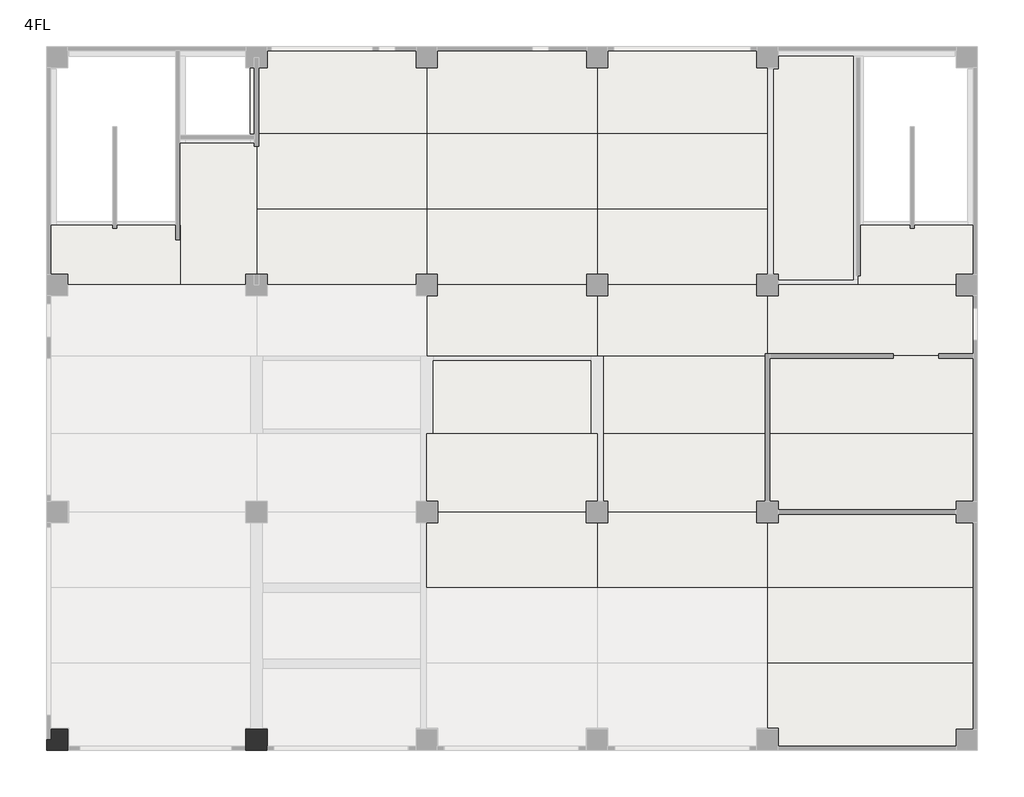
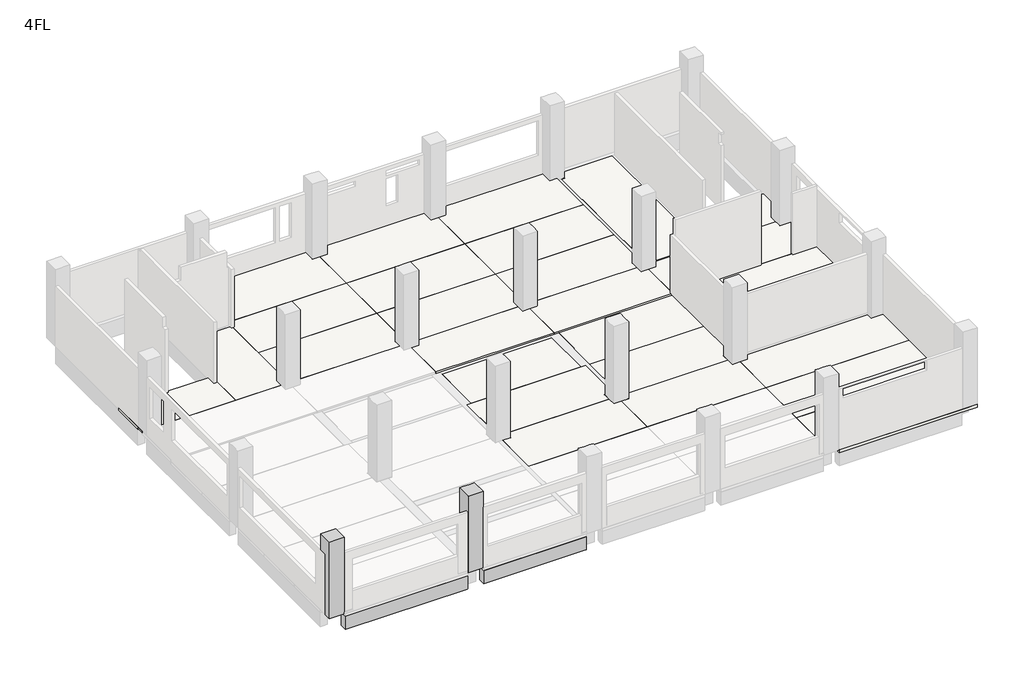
# One storey, part 2 of 4: 27 slabs, 2 beams, 2 columns.
"""IFC4 building model written with IfcOpenShell, lengths in millimetres."""

import ifcopenshell
import ifcopenshell.guid

model = None  # the IFC model being written
_history = None  # IfcOwnerHistory: only IFC2X3 demands one
_inside = {}  # id of a spatial element -> (the spatial element, [elements in it])
_under = {}  # id of a project, library or spatial element -> (it, [spatial elements below it])
_declared = {}  # id of a project -> (the project, [libraries it declares])
_typed = {}  # id of a type object -> (the type object, [elements of that type])
_made_of = {}  # id of a material, layer set ... -> (it, [elements and type objects made of it])


def new_model(schema):
    """Start an empty IFC model of exactly this schema.

    Asked for "IFC4X3", IfcOpenShell would pick the latest addendum, in which some entities
    have other attributes; the version numbers below select the first issue.
    IFC2X3 requires an IfcOwnerHistory on every rooted entity: one is made here for all.
    """
    global model, _history
    if schema == "IFC4X3":
        model = ifcopenshell.file(schema_version=(4, 3, 0, 0))
    else:
        model = ifcopenshell.file(schema=schema)
    _inside.clear()
    _under.clear()
    _declared.clear()
    _typed.clear()
    _made_of.clear()
    _history = None
    if model.schema == "IFC2X3":
        org = make("IfcOrganization", Name="unknown")
        user = make(
            "IfcPersonAndOrganization",
            ThePerson=make("IfcPerson", FamilyName="unknown"),
            TheOrganization=org,
        )
        app = make(
            "IfcApplication",
            ApplicationDeveloper=org,
            Version="unknown",
            ApplicationFullName="unknown",
            ApplicationIdentifier="unknown",
        )
        _history = make(
            "IfcOwnerHistory",
            OwningUser=user,
            OwningApplication=app,
            ChangeAction="ADDED",
            CreationDate=0,
        )
    return model


def make(cls, **values):
    """One entity of the class cls with the attributes given. An attribute that is None is left unset."""
    return model.create_entity(
        cls, **{name: value for name, value in values.items() if value is not None}
    )


def rooted(cls, **values):
    """An entity with a GlobalId (a new one), such as an element, a storey or a relation."""
    return make(cls, GlobalId=ifcopenshell.guid.new(), OwnerHistory=_history, **values)


def si_unit(unit_type, name, prefix=None):
    """IfcSIUnit, for example si_unit("LENGTHUNIT", "METRE", prefix="MILLI")."""
    return make("IfcSIUnit", UnitType=unit_type, Prefix=prefix, Name=name)


def assignment(units):
    """IfcUnitAssignment: the units of a project."""
    return None if units is None else make("IfcUnitAssignment", Units=units)


def point(xyz):
    """IfcCartesianPoint."""
    return None if xyz is None else make("IfcCartesianPoint", Coordinates=xyz)


def direction(xyz):
    """IfcDirection."""
    return None if xyz is None else make("IfcDirection", DirectionRatios=xyz)


def frame(location, z_axis=None, x_axis=None):
    """IfcAxis2Placement3D, a coordinate frame: its origin and axes. An axis left out is left unset."""
    return make(
        "IfcAxis2Placement3D",
        Location=point(location),
        Axis=direction(z_axis),
        RefDirection=direction(x_axis),
    )


def origin():
    """The frame at (0, 0, 0) with its axes left unset."""
    return frame((0.0, 0.0, 0.0))


def place(relative_to, where):
    """IfcLocalPlacement: puts the frame where relative to a parent placement (None: the world)."""
    return make(
        "IfcLocalPlacement", PlacementRelTo=relative_to, RelativePlacement=where
    )


def context(
    kind, dimensions, precision=None, world=None, true_north=None, identifier=None
):
    """IfcGeometricRepresentationContext, for example the 3D "Model" context."""
    return make(
        "IfcGeometricRepresentationContext",
        ContextIdentifier=identifier,
        ContextType=kind,
        CoordinateSpaceDimension=dimensions,
        Precision=precision,
        WorldCoordinateSystem=world,
        TrueNorth=true_north,
    )


def project(units=None, contexts=None):
    """IfcProject with its units and contexts."""
    return rooted(
        "IfcProject",
        Name="project",
        RepresentationContexts=contexts,
        UnitsInContext=assignment(units),
    )


def spatial(cls, under=None, at=None, **own):
    """A site, building, storey or space (cls), placed at a placement, below another one or the project."""
    s = rooted(cls, ObjectPlacement=at, **own)
    if under is not None:
        _under.setdefault(under.id(), (under, []))[1].append(s)
    return s


def polyline(points):
    """IfcPolyline through the points."""
    return make("IfcPolyline", Points=[point(p) for p in points])


def outline(outer, holes=None, kind="AREA"):
    """IfcArbitraryClosedProfileDef: a profile drawn as a closed curve; with holes, ...WithVoids."""
    if holes is None:
        return make("IfcArbitraryClosedProfileDef", ProfileType=kind, OuterCurve=outer)
    return make(
        "IfcArbitraryProfileDefWithVoids",
        ProfileType=kind,
        OuterCurve=outer,
        InnerCurves=holes,
    )


def extrude(swept, where, along, depth):
    """IfcExtrudedAreaSolid: the profile swept, set in the frame where, extruded along a direction by depth."""
    return make(
        "IfcExtrudedAreaSolid",
        SweptArea=swept,
        Position=where,
        ExtrudedDirection=direction(along),
        Depth=depth,
    )


def faces_of(points, faces, orient=None, outer=None):
    """IfcFace entities. A face is a list of loops; a loop is a list of indices into points, from 0.

    orient and outer hold one flag for each loop. By default every Orientation is true, the
    first loop of a face is its IfcFaceOuterBound and the others are IfcFaceBound.
    """
    made = []
    for i, loops in enumerate(faces):
        bounds = []
        for j, loop in enumerate(loops):
            is_outer = j == 0 if outer is None else outer[i][j]
            bounds.append(
                make(
                    "IfcFaceOuterBound" if is_outer else "IfcFaceBound",
                    Bound=make("IfcPolyLoop", Polygon=[points[k] for k in loop]),
                    Orientation=True if orient is None else orient[i][j],
                )
            )
        made.append(make("IfcFace", Bounds=bounds))
    return made


def faceted_brep(points, faces, orient=None, outer=None, voids=None):
    """IfcFacetedBrep: a solid bounded by flat faces; with voids (closed shells), ...WithVoids."""
    shared = [point(p) for p in points]
    hull = make("IfcClosedShell", CfsFaces=faces_of(shared, faces, orient, outer))
    if voids is None:
        return make("IfcFacetedBrep", Outer=hull)
    return make(
        "IfcFacetedBrepWithVoids",
        Outer=hull,
        Voids=[
            make(cls, CfsFaces=faces_of(shared, fs, o, b)) for cls, fs, o, b in voids
        ],
    )


def shape(context_of_items, identifier, shape_type, items):
    """IfcShapeRepresentation: the items that make up one representation, for example the "Body"."""
    return make(
        "IfcShapeRepresentation",
        ContextOfItems=context_of_items,
        RepresentationIdentifier=identifier,
        RepresentationType=shape_type,
        Items=items,
    )


def made_of(thing, what):
    """Note that an element or type object is made of a material, layer set ...; save() writes the relation."""
    if what is not None:
        _made_of.setdefault(what.id(), (what, []))[1].append(thing)
    return thing


def element(
    cls,
    number,
    at=None,
    inside=None,
    cuts=None,
    type_object=None,
    material=None,
    context=None,
    identifier="Body",
    shape_type=None,
    held_by="IfcProductDefinitionShape",
    body=None,
    shapes=None,
    **own,
):
    """One element of the class cls, such as IfcWall. Its Tag is "e" and its number.

    at: its placement. inside: the storey or other place that contains it. cuts: it is an
    opening in that element (IfcRelVoidsElement). A single representation is given by context,
    identifier, shape_type and body (its items); several are given by shapes. held_by: the class
    of the entity that holds the representations. save() writes the other relations.
    """
    e = rooted(cls, Tag="e%d" % number, ObjectPlacement=at, **own)
    if body is not None:
        shapes = [shape(context, identifier, shape_type, body)]
    if shapes is not None:
        e.Representation = make(held_by, Representations=shapes)
    if inside is not None:
        _inside.setdefault(inside.id(), (inside, []))[1].append(e)
    if cuts is not None:
        rooted(
            "IfcRelVoidsElement", RelatingBuildingElement=cuts, RelatedOpeningElement=e
        )
    if type_object is not None:
        _typed.setdefault(type_object.id(), (type_object, []))[1].append(e)
    return made_of(e, material)


def aggregate(whole, parts):
    """IfcRelAggregates: a whole, such as a stair, and the parts it consists of."""
    return rooted("IfcRelAggregates", RelatingObject=whole, RelatedObjects=parts)


def save(model, path):
    """Write the relations noted so far, then the file.

    IfcRelAggregates (storeys below a building ...), IfcRelContainedInSpatialStructure (elements
    in a storey), IfcRelDefinesByType, IfcRelAssociatesMaterial and IfcRelDeclares: one each for
    every whole, place, type object, material and project.
    """
    for whole, parts in _under.values():
        aggregate(whole, parts)
    for where, things in _inside.values():
        rooted(
            "IfcRelContainedInSpatialStructure",
            RelatedElements=things,
            RelatingStructure=where,
        )
    for kind, things in _typed.values():
        rooted("IfcRelDefinesByType", RelatedObjects=things, RelatingType=kind)
    for what, things in _made_of.values():
        rooted("IfcRelAssociatesMaterial", RelatedObjects=things, RelatingMaterial=what)
    for by, libraries in _declared.values():
        rooted("IfcRelDeclares", RelatingContext=by, RelatedDefinitions=libraries)
    model.write(path)


model = new_model("IFC4")

# Units and contexts
model_context = context("Model", 3, world=origin())
ifc_project = project(units=[si_unit("LENGTHUNIT", "METRE", prefix="MILLI")], contexts=[model_context])

# Site, building, storey
site = spatial("IfcSite", under=ifc_project)
building = spatial("IfcBuilding", under=site)
storey = spatial("IfcBuildingStorey", under=building, Name="4FL", Elevation=12300.0)

# Beams
placement = place(None, origin())
element("IfcBeam", 1, ObjectType="RC_B : 4G1", at=placement, inside=storey, context=model_context, shape_type="Brep", body=[
    faceted_brep([(6600.0, -50.0, 12050.0), (6600.0, -50.0, 11350.0), (400.0, -50.0, 11350.0), (400.0, -50.0, 12050.0), (6600.0, -400.0, 11350.0), (6575.0, -400.0, 11350.0), (425.0, -400.0, 11350.0), (400.0, -400.0, 11350.0), (6600.0, -400.0, 12050.0), (400.0, -400.0, 12050.0)], [[[0, 1, 2, 3]], [[1, 4, 5, 6, 7, 2]], [[4, 8, 9, 7, 6, 5]], [[4, 1, 0, 8]], [[8, 0, 3, 9]], [[3, 2, 7, 9]]]),
])
element("IfcBeam", 2, ObjectType="RC_B : 4G1", at=placement, inside=storey, context=model_context, shape_type="Brep", body=[
    faceted_brep([(12600.0, -50.0, 12050.0), (12600.0, -50.0, 11350.0), (7400.0, -50.0, 11350.0), (7400.0, -50.0, 12050.0), (12600.0, -400.0, 11350.0), (12575.0, -400.0, 11350.0), (7400.0, -400.0, 11350.0), (7400.0, -250.0, 11350.0), (12600.0, -400.0, 12050.0), (7400.0, -400.0, 12050.0)], [[[0, 1, 2, 3]], [[1, 4, 5, 6, 7, 2]], [[4, 8, 9, 6, 5]], [[4, 1, 0, 8]], [[8, 0, 3, 9]], [[3, 2, 7, 6, 9]]]),
])

# Columns
element("IfcColumn", 3, ObjectType="RC_C_B : 4C1", at=placement, inside=storey, context=model_context, shape_type="Brep", body=[
    faceted_brep([(7375.0, 350.0, 12200.0), (7375.0, -250.0, 12200.0), (7375.0, -400.0, 12200.0), (6625.0, -400.0, 12200.0), (6625.0, -250.0, 12200.0), (6625.0, 350.0, 12200.0), (7375.0, 350.0, 16300.0), (7375.0, -400.0, 16300.0), (7375.0, -400.0, 16240.0), (7375.0, -400.0, 15450.0), (7375.0, 350.0, 16240.0), (7000.0, -400.0, 16300.0), (6625.0, -400.0, 16300.0), (6625.0, -400.0, 16240.0), (6625.0, -400.0, 15450.0), (6625.0, -400.0, 12300.0), (6625.0, 350.0, 16300.0), (6625.0, 350.0, 16240.0), (6825.0, 350.0, 16300.0), (7000.0, 350.0, 16300.0), (7175.0, 350.0, 16300.0)], [[[0, 1, 2, 3, 4, 5]], [[6, 7, 8, 9, 2, 1, 0, 10]], [[7, 11, 12, 13, 14, 15, 3, 2, 9, 8]], [[12, 16, 17, 5, 4, 3, 15, 14, 13]], [[16, 18, 19, 20, 6, 10, 0, 5, 17]], [[6, 20, 19, 18, 16, 12, 11, 7]]]),
])
element("IfcColumn", 4, ObjectType="RC_C_B : 4C2", at=placement, inside=storey, context=model_context, shape_type="Brep", body=[
    faceted_brep([(350.0, 350.0, 12200.0), (350.0, -400.0, 12200.0), (-400.0, -400.0, 12200.0), (-400.0, 0.0, 12200.0), (-250.0, 0.0, 12200.0), (-250.0, 350.0, 12200.0), (350.0, 350.0, 16240.0), (350.0, 350.0, 16300.0), (350.0, -400.0, 16300.0), (350.0, -400.0, 16240.0), (350.0, -400.0, 15450.0), (-400.0, -400.0, 16300.0), (-400.0, 350.0, 16300.0), (-400.0, 350.0, 16240.0), (-400.0, 350.0, 15400.0), (-400.0, 0.0, 15400.0), (-250.0, 350.0, 15400.0), (-250.0, 0.0, 15400.0)], [[[0, 1, 2, 3, 4, 5]], [[1, 0, 6, 7, 8, 9, 10]], [[2, 1, 10, 9, 8, 11]], [[2, 11, 12, 13, 14, 15, 3]], [[7, 6, 0, 5, 16, 14, 13, 12]], [[8, 7, 12, 11]], [[4, 17, 16, 5]], [[17, 4, 3, 15]], [[17, 15, 14, 16]]]),
])

# Slabs
element("IfcSlab", 5, ObjectType="S1", at=placement, inside=storey, context=model_context, shape_type="Brep", body=[
    faceted_brep([(7000.0, 16400.0, 12140.0), (7000.0, 18664.0, 12140.0), (7087.7, 18664.0, 12140.0), (7087.7, 18495.0, 12140.0), (7225.0, 18495.0, 12140.0), (13000.0, 18495.0, 12140.0), (13000.0, 16400.0, 12140.0), (12600.0, 16400.0, 12140.0), (12600.0, 16175.0, 12140.0), (12600.0, 16000.0, 12140.0), (7400.0, 16000.0, 12140.0), (7400.0, 16400.0, 12140.0), (13000.0, 18664.0, 12290.0), (7000.0, 18664.0, 12290.0), (7000.0, 16375.0, 12290.0), (7375.0, 16375.0, 12290.0), (7375.0, 16000.0, 12290.0), (12625.0, 16000.0, 12290.0), (12625.0, 16375.0, 12290.0), (13000.0, 16375.0, 12290.0), (7400.0, 16000.0, 12200.0), (12600.0, 16000.0, 12200.0), (12625.0, 16000.0, 12200.0), (7375.0, 16000.0, 12200.0), (7000.0, 16400.0, 12200.0), (7000.0, 16375.0, 12200.0), (13000.0, 18664.0, 12200.0), (7087.7, 18664.0, 12200.0), (13000.0, 16400.0, 12200.0), (13000.0, 18495.0, 12200.0), (13000.0, 16375.0, 12200.0), (7400.0, 16400.0, 12200.0), (7375.0, 16375.0, 12200.0), (12600.0, 16400.0, 12200.0), (12625.0, 16375.0, 12200.0), (7087.7, 18495.0, 12200.0), (12775.0, 18495.0, 12200.0)], [[[0, 1, 2, 3, 4, 5, 6, 7, 8, 9, 10, 11]], [[12, 13, 14, 15, 16, 17, 18, 19]], [[20, 10, 9, 21, 22, 17, 16, 23]], [[13, 1, 0, 24, 25, 14]], [[13, 12, 26, 27, 2, 1]], [[28, 6, 5, 29, 26, 12, 19, 30]], [[31, 11, 10, 20]], [[11, 31, 24, 0]], [[31, 20, 23, 32, 25, 24]], [[15, 32, 23, 16]], [[32, 15, 14, 25]], [[7, 33, 21, 9, 8]], [[33, 7, 6, 28]], [[21, 33, 28, 30, 34, 22]], [[34, 18, 17, 22]], [[18, 34, 30, 19]], [[35, 36, 29, 5, 4, 3]], [[29, 36, 35, 27, 26]], [[35, 3, 2, 27]]]),
])
element("IfcSlab", 6, ObjectType="S1", at=placement, inside=storey, context=model_context, shape_type="Brep", body=[
    faceted_brep([(7000.0, 18664.0, 12140.0), (7000.0, 21000.0, 12140.0), (7000.0, 21328.0, 12140.0), (7087.7, 21328.0, 12140.0), (7087.7, 21153.0, 12140.0), (7225.0, 21153.0, 12140.0), (12775.0, 21153.0, 12140.0), (13000.0, 21153.0, 12140.0), (13000.0, 18845.0, 12140.0), (7225.0, 18845.0, 12140.0), (7087.7, 18845.0, 12140.0), (7087.7, 18664.0, 12140.0), (13000.0, 18664.0, 12290.0), (13000.0, 21328.0, 12290.0), (7000.0, 21328.0, 12290.0), (7000.0, 21000.0, 12290.0), (7000.0, 18664.0, 12290.0), (13000.0, 18664.0, 12200.0), (13000.0, 18845.0, 12200.0), (13000.0, 21153.0, 12200.0), (13000.0, 21328.0, 12200.0), (7087.7, 18664.0, 12200.0), (7000.0, 21328.0, 12200.0), (7087.7, 21328.0, 12200.0), (12775.0, 18845.0, 12200.0), (7087.7, 18845.0, 12200.0), (7087.7, 21153.0, 12200.0), (12775.0, 21153.0, 12200.0)], [[[0, 1, 2, 3, 4, 5, 6, 7, 8, 9, 10, 11]], [[12, 13, 14, 15, 16]], [[13, 12, 17, 18, 8, 7, 19, 20]], [[12, 16, 0, 11, 21, 17]], [[2, 1, 0, 16, 15, 14, 22]], [[14, 13, 20, 23, 3, 2, 22]], [[10, 9, 8, 18, 24, 25]], [[26, 27, 19, 7, 6, 5, 4]], [[18, 17, 21, 25, 24]], [[19, 27, 26, 23, 20]], [[10, 25, 21, 11]], [[26, 4, 3, 23]]]),
])
element("IfcSlab", 7, ObjectType="S1", at=placement, inside=storey, context=model_context, shape_type="Brep", body=[
    faceted_brep([(6775.0, 21328.0, 12140.0), (6775.0, 23600.0, 12140.0), (7225.0, 23600.0, 12140.0), (7400.0, 23600.0, 12140.0), (7400.0, 24050.0, 12140.0), (7400.0, 24400.0, 12140.0), (12600.0, 24400.0, 12140.0), (12600.0, 24050.0, 12140.0), (12600.0, 23600.0, 12140.0), (12775.0, 23600.0, 12140.0), (13000.0, 23600.0, 12140.0), (13000.0, 21503.0, 12140.0), (12775.0, 21503.0, 12140.0), (7225.0, 21503.0, 12140.0), (7087.7, 21503.0, 12140.0), (7087.7, 21328.0, 12140.0), (7000.0, 21328.0, 12140.0), (13000.0, 21328.0, 12290.0), (13000.0, 24400.0, 12290.0), (12625.0, 24400.0, 12290.0), (7375.0, 24400.0, 12290.0), (6775.0, 24400.0, 12290.0), (6775.0, 23650.0, 12290.0), (6775.0, 21328.0, 12290.0), (7000.0, 21328.0, 12290.0), (13000.0, 21328.0, 12200.0), (13000.0, 21503.0, 12200.0), (13000.0, 23600.0, 12200.0), (13000.0, 24400.0, 12200.0), (6775.0, 21328.0, 12200.0), (7087.7, 21328.0, 12200.0), (6775.0, 24400.0, 12200.0), (6775.0, 23650.0, 12200.0), (6775.0, 23600.0, 12200.0), (12600.0, 24400.0, 12200.0), (7400.0, 24400.0, 12200.0), (7400.0, 23600.0, 12200.0), (12600.0, 23600.0, 12200.0), (7087.7, 21503.0, 12200.0), (12775.0, 21503.0, 12200.0)], [[[0, 1, 2, 3, 4, 5, 6, 7, 8, 9, 10, 11, 12, 13, 14, 15, 16]], [[17, 18, 19, 20, 21, 22, 23, 24]], [[18, 17, 25, 26, 11, 10, 27, 28]], [[17, 24, 23, 29, 0, 16, 15, 30, 25]], [[23, 22, 21, 31, 32, 33, 1, 0, 29]], [[21, 20, 19, 18, 28, 34, 6, 5, 35, 31]], [[36, 35, 5, 4, 3]], [[36, 3, 2, 1, 33]], [[35, 36, 33, 32, 31]], [[8, 37, 27, 10, 9]], [[34, 37, 8, 7, 6]], [[37, 34, 28, 27]], [[38, 14, 13, 12, 11, 26, 39]], [[38, 39, 26, 25, 30]], [[14, 38, 30, 15]]]),
])
element("IfcSlab", 8, ObjectType="S1", at=placement, inside=storey, context=model_context, shape_type="Brep", body=[
    faceted_brep([(25000.0, 10752.0, 12140.0), (32400.0, 10752.0, 12140.0), (32400.0, 8400.0, 12140.0), (32400.0, 8000.0, 12140.0), (31600.0, 8000.0, 12140.0), (25400.0, 8000.0, 12140.0), (25400.0, 8400.0, 12140.0), (25000.0, 8400.0, 12140.0), (32400.0, 10752.0, 12290.0), (25000.0, 10752.0, 12290.0), (25000.0, 8375.0, 12290.0), (25375.0, 8375.0, 12290.0), (25375.0, 8000.0, 12290.0), (31650.0, 8000.0, 12290.0), (31650.0, 8375.0, 12290.0), (32250.0, 8375.0, 12290.0), (32400.0, 8375.0, 12290.0), (32400.0, 8000.0, 12200.0), (31650.0, 8000.0, 12200.0), (25375.0, 8000.0, 12200.0), (25400.0, 8000.0, 12200.0), (25000.0, 10752.0, 12200.0), (25000.0, 8400.0, 12200.0), (25000.0, 8375.0, 12200.0), (32400.0, 8375.0, 12200.0), (25400.0, 8400.0, 12200.0), (25375.0, 8375.0, 12200.0), (31650.0, 8375.0, 12200.0)], [[[0, 1, 2, 3, 4, 5, 6, 7]], [[8, 9, 10, 11, 12, 13, 14, 15, 16]], [[5, 4, 3, 17, 18, 13, 12, 19, 20]], [[9, 21, 0, 7, 22, 23, 10]], [[1, 0, 21, 9, 8]], [[3, 2, 1, 8, 16, 24, 17]], [[25, 6, 5, 20]], [[6, 25, 22, 7]], [[25, 20, 19, 26, 23, 22]], [[11, 26, 19, 12]], [[26, 11, 10, 23]], [[24, 27, 18, 17]], [[18, 27, 14, 13]], [[27, 24, 16, 15, 14]]]),
])
element("IfcSlab", 9, ObjectType="S1", at=placement, inside=storey, context=model_context, shape_type="Brep", body=[
    faceted_brep([(32400.0, 13504.0, 12140.0), (32400.0, 10752.0, 12140.0), (25000.0, 10752.0, 12140.0), (25000.0, 13504.0, 12140.0), (32400.0, 13504.0, 12290.0), (25000.0, 13504.0, 12290.0), (25000.0, 10752.0, 12290.0), (32400.0, 10752.0, 12290.0), (25000.0, 10752.0, 12200.0), (25000.0, 13504.0, 12200.0)], [[[0, 1, 2, 3]], [[4, 5, 6, 7]], [[1, 0, 4, 7]], [[2, 1, 7, 6, 8]], [[3, 2, 8, 6, 5, 9]], [[0, 3, 9, 5, 4]]]),
])
element("IfcSlab", 10, ObjectType="S2", at=placement, inside=storey, context=model_context, shape_type="Brep", body=[
    faceted_brep([(19000.0, 5328.0, 12050.0), (13000.0, 5328.0, 12050.0), (13000.0, 7600.0, 12050.0), (13225.0, 7600.0, 12050.0), (13400.0, 7600.0, 12050.0), (13400.0, 8000.0, 12050.0), (18600.0, 8000.0, 12050.0), (18600.0, 7825.0, 12050.0), (18600.0, 7600.0, 12050.0), (18775.0, 7600.0, 12050.0), (19000.0, 7600.0, 12050.0), (13000.0, 5328.0, 12200.0), (19000.0, 5328.0, 12200.0), (19000.0, 7600.0, 12200.0), (18600.0, 7600.0, 12200.0), (18600.0, 8000.0, 12200.0), (13400.0, 8000.0, 12200.0), (13400.0, 7600.0, 12200.0), (13000.0, 7600.0, 12200.0)], [[[0, 1, 2, 3, 4, 5, 6, 7, 8, 9, 10]], [[11, 12, 13, 14, 15, 16, 17, 18]], [[12, 0, 10, 13]], [[1, 0, 12, 11]], [[1, 11, 18, 2]], [[5, 16, 15, 6]], [[4, 17, 16, 5]], [[17, 4, 3, 2, 18]], [[8, 14, 13, 10, 9]], [[14, 8, 7, 6, 15]]]),
])
element("IfcSlab", 11, ObjectType="S2", at=placement, inside=storey, context=model_context, shape_type="Brep", body=[
    faceted_brep([(25000.0, 5328.0, 12050.0), (19000.0, 5328.0, 12050.0), (19000.0, 7600.0, 12050.0), (19225.0, 7600.0, 12050.0), (19400.0, 7600.0, 12050.0), (19400.0, 8000.0, 12050.0), (24600.0, 8000.0, 12050.0), (24600.0, 7825.0, 12050.0), (24600.0, 7600.0, 12050.0), (24775.0, 7600.0, 12050.0), (25000.0, 7600.0, 12050.0), (19000.0, 5328.0, 12200.0), (25000.0, 5328.0, 12200.0), (25000.0, 7600.0, 12200.0), (24600.0, 7600.0, 12200.0), (24600.0, 8000.0, 12200.0), (19400.0, 8000.0, 12200.0), (19400.0, 7600.0, 12200.0), (19000.0, 7600.0, 12200.0)], [[[0, 1, 2, 3, 4, 5, 6, 7, 8, 9, 10]], [[11, 12, 13, 14, 15, 16, 17, 18]], [[12, 0, 10, 13]], [[1, 0, 12, 11]], [[1, 11, 18, 2]], [[5, 16, 15, 6]], [[4, 17, 16, 5]], [[17, 4, 3, 2, 18]], [[8, 14, 13, 10, 9]], [[14, 8, 7, 6, 15]]]),
])
element("IfcSlab", 12, ObjectType="S2", at=placement, inside=storey, context=model_context, shape_type="Brep", body=[
    faceted_brep([(25000.0, 2664.0, 12050.0), (32400.0, 2664.0, 12050.0), (32400.0, 400.0, 12050.0), (32400.0, -400.0, 12050.0), (31600.0, -400.0, 12050.0), (25400.0, -400.0, 12050.0), (25400.0, -50.0, 12050.0), (25400.0, 400.0, 12050.0), (25000.0, 400.0, 12050.0), (32400.0, 2664.0, 12200.0), (25000.0, 2664.0, 12200.0), (25000.0, 400.0, 12200.0), (25400.0, 400.0, 12200.0), (25400.0, -400.0, 12200.0), (31650.0, -400.0, 12200.0), (32400.0, -400.0, 12200.0), (32400.0, 350.0, 12200.0)], [[[0, 1, 2, 3, 4, 5, 6, 7, 8]], [[9, 10, 11, 12, 13, 14, 15, 16]], [[3, 15, 14, 13, 5, 4]], [[10, 0, 8, 11]], [[1, 0, 10, 9]], [[3, 2, 1, 9, 16, 15]], [[12, 7, 6, 5, 13]], [[7, 12, 11, 8]]]),
])
element("IfcSlab", 13, ObjectType="S2", at=placement, inside=storey, context=model_context, shape_type="SweptSolid", body=[
    extrude(outline(polyline([(32400.0, 5328.0), (32400.0, 2664.0), (25000.0, 2664.0), (25000.0, 5328.0), (32400.0, 5328.0)])), frame((0.0, 0.0, 12050.0), z_axis=(0.0, 0.0, 1.0), x_axis=(1.0, 0.0, 0.0)), (0.0, 0.0, 1.0), 150.0),
])
element("IfcSlab", 14, ObjectType="S2", at=placement, inside=storey, context=model_context, shape_type="Brep", body=[
    faceted_brep([(32400.0, 8000.0, 12050.0), (32400.0, 7600.0, 12050.0), (32400.0, 5328.0, 12050.0), (25000.0, 5328.0, 12050.0), (25000.0, 7600.0, 12050.0), (25225.0, 7600.0, 12050.0), (25400.0, 7600.0, 12050.0), (25400.0, 8000.0, 12050.0), (31600.0, 8000.0, 12050.0), (32400.0, 5328.0, 12200.0), (32400.0, 7625.0, 12200.0), (32400.0, 8000.0, 12200.0), (31650.0, 8000.0, 12200.0), (25400.0, 8000.0, 12200.0), (25400.0, 7600.0, 12200.0), (25000.0, 7600.0, 12200.0), (25000.0, 5328.0, 12200.0), (32400.0, 8000.0, 12140.0), (25400.0, 8000.0, 12140.0)], [[[0, 1, 2, 3, 4, 5, 6, 7, 8]], [[9, 10, 11, 12, 13, 14, 15, 16]], [[2, 1, 0, 17, 11, 10, 9]], [[3, 2, 9, 16]], [[3, 16, 15, 4]], [[11, 17, 0, 8, 7, 18, 13, 12]], [[6, 14, 13, 18, 7]], [[14, 6, 5, 4, 15]]]),
])
element("IfcSlab", 15, ObjectType="S2", at=placement, inside=storey, context=model_context, shape_type="Brep", body=[
    faceted_brep([(13400.0, 15600.0, 12140.0), (13400.0, 16000.0, 12140.0), (18600.0, 16000.0, 12140.0), (18600.0, 15825.0, 12140.0), (18600.0, 15600.0, 12140.0), (18775.0, 15600.0, 12140.0), (19000.0, 15600.0, 12140.0), (19000.0, 13675.0, 12140.0), (13000.0, 13675.0, 12140.0), (13000.0, 15600.0, 12140.0), (13225.0, 15600.0, 12140.0), (13000.0, 13504.0, 12290.0), (19000.0, 13504.0, 12290.0), (19000.0, 15625.0, 12290.0), (18625.0, 15625.0, 12290.0), (18625.0, 16000.0, 12290.0), (13375.0, 16000.0, 12290.0), (13375.0, 15625.0, 12290.0), (13000.0, 15625.0, 12290.0), (19000.0, 15600.0, 12200.0), (19000.0, 15625.0, 12200.0), (19000.0, 13504.0, 12200.0), (19000.0, 13675.0, 12200.0), (13000.0, 13504.0, 12200.0), (13000.0, 15600.0, 12200.0), (13000.0, 13675.0, 12200.0), (13000.0, 15625.0, 12200.0), (13400.0, 16000.0, 12200.0), (13375.0, 16000.0, 12200.0), (18625.0, 16000.0, 12200.0), (18600.0, 16000.0, 12200.0), (13400.0, 15600.0, 12200.0), (13375.0, 15625.0, 12200.0), (18600.0, 15600.0, 12200.0), (18625.0, 15625.0, 12200.0), (18775.0, 13675.0, 12200.0), (13225.0, 13675.0, 12200.0)], [[[0, 1, 2, 3, 4, 5, 6, 7, 8, 9, 10]], [[11, 12, 13, 14, 15, 16, 17, 18]], [[6, 19, 20, 13, 12, 21, 22, 7]], [[12, 11, 23, 21]], [[24, 9, 8, 25, 23, 11, 18, 26]], [[1, 27, 28, 16, 15, 29, 30, 2]], [[0, 31, 27, 1]], [[31, 0, 10, 9, 24]], [[27, 31, 24, 26, 32, 28]], [[32, 17, 16, 28]], [[17, 32, 26, 18]], [[4, 33, 19, 6, 5]], [[33, 4, 3, 2, 30]], [[19, 33, 30, 29, 34, 20]], [[34, 14, 13, 20]], [[14, 34, 29, 15]], [[22, 35, 36, 25, 8, 7]], [[25, 36, 35, 22, 21, 23]]]),
])
element("IfcSlab", 16, ObjectType="S2", at=placement, inside=storey, context=model_context, shape_type="Brep", body=[
    faceted_brep([(19400.0, 15600.0, 12140.0), (19400.0, 16000.0, 12140.0), (24600.0, 16000.0, 12140.0), (24600.0, 15825.0, 12140.0), (24600.0, 15600.0, 12140.0), (24775.0, 15600.0, 12140.0), (25000.0, 15600.0, 12140.0), (25000.0, 13504.0, 12140.0), (24912.3, 13504.0, 12140.0), (24912.3, 13675.0, 12140.0), (24775.0, 13675.0, 12140.0), (19000.0, 13675.0, 12140.0), (19000.0, 15600.0, 12140.0), (19225.0, 15600.0, 12140.0), (19000.0, 13504.0, 12290.0), (25000.0, 13504.0, 12290.0), (25000.0, 15625.0, 12290.0), (24625.0, 15625.0, 12290.0), (24625.0, 16000.0, 12290.0), (19375.0, 16000.0, 12290.0), (19375.0, 15625.0, 12290.0), (19000.0, 15625.0, 12290.0), (25000.0, 13504.0, 12200.0), (25000.0, 15600.0, 12200.0), (25000.0, 15625.0, 12200.0), (19000.0, 13504.0, 12200.0), (19225.0, 13504.0, 12200.0), (24912.3, 13504.0, 12200.0), (19000.0, 15600.0, 12200.0), (19000.0, 13675.0, 12200.0), (19000.0, 15625.0, 12200.0), (19400.0, 16000.0, 12200.0), (19375.0, 16000.0, 12200.0), (24625.0, 16000.0, 12200.0), (24600.0, 16000.0, 12200.0), (19400.0, 15600.0, 12200.0), (19375.0, 15625.0, 12200.0), (24600.0, 15600.0, 12200.0), (24625.0, 15625.0, 12200.0), (24912.3, 13675.0, 12200.0), (19225.0, 13675.0, 12200.0)], [[[0, 1, 2, 3, 4, 5, 6, 7, 8, 9, 10, 11, 12, 13]], [[14, 15, 16, 17, 18, 19, 20, 21]], [[15, 22, 7, 6, 23, 24, 16]], [[15, 14, 25, 26, 27, 8, 7, 22]], [[28, 12, 11, 29, 25, 14, 21, 30]], [[1, 31, 32, 19, 18, 33, 34, 2]], [[0, 35, 31, 1]], [[35, 0, 13, 12, 28]], [[31, 35, 28, 30, 36, 32]], [[36, 20, 19, 32]], [[20, 36, 30, 21]], [[4, 37, 23, 6, 5]], [[37, 4, 3, 2, 34]], [[23, 37, 34, 33, 38, 24]], [[38, 17, 16, 24]], [[17, 38, 33, 18]], [[9, 39, 40, 29, 11, 10]], [[29, 40, 39, 27, 26, 25]], [[39, 9, 8, 27]]]),
])
element("IfcSlab", 17, ObjectType="S2", at=placement, inside=storey, context=model_context, shape_type="Brep", body=[
    faceted_brep([(32400.0, 13504.0, 12140.0), (25000.0, 13504.0, 12140.0), (25000.0, 15600.0, 12140.0), (25225.0, 15600.0, 12140.0), (25400.0, 15600.0, 12140.0), (25400.0, 16000.0, 12140.0), (28199.0, 16000.0, 12140.0), (31600.0, 16000.0, 12140.0), (31600.0, 15825.0, 12140.0), (31600.0, 15600.0, 12140.0), (32050.0, 15600.0, 12140.0), (32400.0, 15600.0, 12140.0), (25000.0, 13504.0, 12290.0), (32400.0, 13504.0, 12290.0), (32400.0, 15625.0, 12290.0), (32250.0, 15625.0, 12290.0), (31650.0, 15625.0, 12290.0), (31650.0, 16000.0, 12290.0), (28199.0, 16000.0, 12290.0), (25375.0, 16000.0, 12290.0), (25375.0, 15625.0, 12290.0), (25000.0, 15625.0, 12290.0), (32400.0, 15600.0, 12200.0), (32400.0, 15625.0, 12200.0), (25000.0, 15625.0, 12200.0), (25000.0, 15600.0, 12200.0), (25400.0, 16000.0, 12200.0), (25375.0, 16000.0, 12200.0), (31650.0, 16000.0, 12200.0), (31600.0, 16000.0, 12200.0), (25400.0, 15600.0, 12200.0), (25375.0, 15625.0, 12200.0), (31600.0, 15600.0, 12200.0), (31650.0, 15625.0, 12200.0)], [[[0, 1, 2, 3, 4, 5, 6, 7, 8, 9, 10, 11]], [[12, 13, 14, 15, 16, 17, 18, 19, 20, 21]], [[13, 0, 11, 22, 23, 14]], [[1, 0, 13, 12]], [[1, 12, 21, 24, 25, 2]], [[5, 26, 27, 19, 18, 17, 28, 29, 7, 6]], [[4, 30, 26, 5]], [[30, 4, 3, 2, 25]], [[26, 30, 25, 24, 31, 27]], [[31, 20, 19, 27]], [[20, 31, 24, 21]], [[32, 22, 11, 10, 9]], [[32, 9, 8, 7, 29]], [[22, 32, 29, 28, 33, 23]], [[33, 16, 15, 14, 23]], [[16, 33, 28, 17]]]),
])
element("IfcSlab", 18, ObjectType="S2", at=placement, inside=storey, context=model_context, shape_type="Brep", body=[
    faceted_brep([(13400.0, 16000.0, 12140.0), (13400.0, 16400.0, 12140.0), (13000.0, 16400.0, 12140.0), (13000.0, 18495.0, 12140.0), (19000.0, 18495.0, 12140.0), (19000.0, 16400.0, 12140.0), (18600.0, 16400.0, 12140.0), (18600.0, 16175.0, 12140.0), (18600.0, 16000.0, 12140.0), (19000.0, 18664.0, 12290.0), (13000.0, 18664.0, 12290.0), (13000.0, 16375.0, 12290.0), (13375.0, 16375.0, 12290.0), (13375.0, 16000.0, 12290.0), (18625.0, 16000.0, 12290.0), (18625.0, 16375.0, 12290.0), (19000.0, 16375.0, 12290.0), (13400.0, 16000.0, 12200.0), (18600.0, 16000.0, 12200.0), (18625.0, 16000.0, 12200.0), (13375.0, 16000.0, 12200.0), (13000.0, 16400.0, 12200.0), (13000.0, 16375.0, 12200.0), (13000.0, 18664.0, 12200.0), (13000.0, 18495.0, 12200.0), (19000.0, 18664.0, 12200.0), (19000.0, 16400.0, 12200.0), (19000.0, 18495.0, 12200.0), (19000.0, 16375.0, 12200.0), (13400.0, 16400.0, 12200.0), (13375.0, 16375.0, 12200.0), (18600.0, 16400.0, 12200.0), (18625.0, 16375.0, 12200.0), (13225.0, 18495.0, 12200.0), (18775.0, 18495.0, 12200.0)], [[[0, 1, 2, 3, 4, 5, 6, 7, 8]], [[9, 10, 11, 12, 13, 14, 15, 16]], [[17, 0, 8, 18, 19, 14, 13, 20]], [[2, 21, 22, 11, 10, 23, 24, 3]], [[10, 9, 25, 23]], [[26, 5, 4, 27, 25, 9, 16, 28]], [[29, 1, 0, 17]], [[1, 29, 21, 2]], [[29, 17, 20, 30, 22, 21]], [[12, 30, 20, 13]], [[30, 12, 11, 22]], [[6, 31, 18, 8, 7]], [[31, 6, 5, 26]], [[18, 31, 26, 28, 32, 19]], [[32, 15, 14, 19]], [[15, 32, 28, 16]], [[24, 33, 34, 27, 4, 3]], [[27, 34, 33, 24, 23, 25]]]),
])
element("IfcSlab", 19, ObjectType="S2", at=placement, inside=storey, context=model_context, shape_type="Brep", body=[
    faceted_brep([(19000.0, 18845.0, 12140.0), (13000.0, 18845.0, 12140.0), (13000.0, 21153.0, 12140.0), (13225.0, 21153.0, 12140.0), (18775.0, 21153.0, 12140.0), (19000.0, 21153.0, 12140.0), (19000.0, 18664.0, 12290.0), (19000.0, 21328.0, 12290.0), (13000.0, 21328.0, 12290.0), (13000.0, 18664.0, 12290.0), (19000.0, 18664.0, 12200.0), (19000.0, 18845.0, 12200.0), (19000.0, 21153.0, 12200.0), (19000.0, 21328.0, 12200.0), (13000.0, 18664.0, 12200.0), (13000.0, 21328.0, 12200.0), (13000.0, 21153.0, 12200.0), (13000.0, 18845.0, 12200.0), (18775.0, 18845.0, 12200.0), (13225.0, 18845.0, 12200.0), (13225.0, 21153.0, 12200.0)], [[[0, 1, 2, 3, 4, 5]], [[6, 7, 8, 9]], [[7, 6, 10, 11, 0, 5, 12, 13]], [[6, 9, 14, 10]], [[9, 8, 15, 16, 2, 1, 17, 14]], [[8, 7, 13, 15]], [[1, 0, 11, 18, 19, 17]], [[16, 20, 12, 5, 4, 3, 2]], [[11, 10, 14, 17, 19, 18]], [[12, 20, 16, 15, 13]]]),
])
element("IfcSlab", 20, ObjectType="S2", at=placement, inside=storey, context=model_context, shape_type="Brep", body=[
    faceted_brep([(13400.0, 23600.0, 12140.0), (13400.0, 24050.0, 12140.0), (13400.0, 24400.0, 12140.0), (18600.0, 24400.0, 12140.0), (18600.0, 24050.0, 12140.0), (18600.0, 23600.0, 12140.0), (18775.0, 23600.0, 12140.0), (19000.0, 23600.0, 12140.0), (19000.0, 21503.0, 12140.0), (18775.0, 21503.0, 12140.0), (13225.0, 21503.0, 12140.0), (13000.0, 21503.0, 12140.0), (13000.0, 23600.0, 12140.0), (13225.0, 23600.0, 12140.0), (19000.0, 21328.0, 12290.0), (19000.0, 24400.0, 12290.0), (18625.0, 24400.0, 12290.0), (13375.0, 24400.0, 12290.0), (13000.0, 24400.0, 12290.0), (13000.0, 21328.0, 12290.0), (19000.0, 21328.0, 12200.0), (19000.0, 21503.0, 12200.0), (19000.0, 23600.0, 12200.0), (19000.0, 24400.0, 12200.0), (13000.0, 21328.0, 12200.0), (13000.0, 24400.0, 12200.0), (13000.0, 23600.0, 12200.0), (13000.0, 21503.0, 12200.0), (18600.0, 24400.0, 12200.0), (13400.0, 24400.0, 12200.0), (13400.0, 23600.0, 12200.0), (18600.0, 23600.0, 12200.0), (13225.0, 21503.0, 12200.0)], [[[0, 1, 2, 3, 4, 5, 6, 7, 8, 9, 10, 11, 12, 13]], [[14, 15, 16, 17, 18, 19]], [[15, 14, 20, 21, 8, 7, 22, 23]], [[14, 19, 24, 20]], [[19, 18, 25, 26, 12, 11, 27, 24]], [[18, 17, 16, 15, 23, 28, 3, 2, 29, 25]], [[30, 29, 2, 1, 0]], [[30, 0, 13, 12, 26]], [[29, 30, 26, 25]], [[5, 31, 22, 7, 6]], [[28, 31, 5, 4, 3]], [[31, 28, 23, 22]], [[21, 32, 27, 11, 10, 9, 8]], [[27, 32, 21, 20, 24]]]),
])
element("IfcSlab", 21, ObjectType="S2", at=placement, inside=storey, context=model_context, shape_type="Brep", body=[
    faceted_brep([(19400.0, 16000.0, 12140.0), (19400.0, 16400.0, 12140.0), (19000.0, 16400.0, 12140.0), (19000.0, 18495.0, 12140.0), (25000.0, 18495.0, 12140.0), (25000.0, 16400.0, 12140.0), (24600.0, 16400.0, 12140.0), (24600.0, 16175.0, 12140.0), (24600.0, 16000.0, 12140.0), (25000.0, 18664.0, 12290.0), (19000.0, 18664.0, 12290.0), (19000.0, 16375.0, 12290.0), (19375.0, 16375.0, 12290.0), (19375.0, 16000.0, 12290.0), (24625.0, 16000.0, 12290.0), (24625.0, 16375.0, 12290.0), (25000.0, 16375.0, 12290.0), (19400.0, 16000.0, 12200.0), (24600.0, 16000.0, 12200.0), (24625.0, 16000.0, 12200.0), (19375.0, 16000.0, 12200.0), (19000.0, 16400.0, 12200.0), (19000.0, 16375.0, 12200.0), (19000.0, 18664.0, 12200.0), (19000.0, 18495.0, 12200.0), (25000.0, 18664.0, 12200.0), (25000.0, 16400.0, 12200.0), (25000.0, 18495.0, 12200.0), (25000.0, 16375.0, 12200.0), (19400.0, 16400.0, 12200.0), (19375.0, 16375.0, 12200.0), (24600.0, 16400.0, 12200.0), (24625.0, 16375.0, 12200.0), (19225.0, 18495.0, 12200.0), (24775.0, 18495.0, 12200.0)], [[[0, 1, 2, 3, 4, 5, 6, 7, 8]], [[9, 10, 11, 12, 13, 14, 15, 16]], [[17, 0, 8, 18, 19, 14, 13, 20]], [[2, 21, 22, 11, 10, 23, 24, 3]], [[10, 9, 25, 23]], [[26, 5, 4, 27, 25, 9, 16, 28]], [[29, 1, 0, 17]], [[1, 29, 21, 2]], [[29, 17, 20, 30, 22, 21]], [[12, 30, 20, 13]], [[30, 12, 11, 22]], [[6, 31, 18, 8, 7]], [[31, 6, 5, 26]], [[18, 31, 26, 28, 32, 19]], [[32, 15, 14, 19]], [[15, 32, 28, 16]], [[24, 33, 34, 27, 4, 3]], [[27, 34, 33, 24, 23, 25]]]),
])
element("IfcSlab", 22, ObjectType="S2", at=placement, inside=storey, context=model_context, shape_type="Brep", body=[
    faceted_brep([(25000.0, 18845.0, 12140.0), (19000.0, 18845.0, 12140.0), (19000.0, 21153.0, 12140.0), (19225.0, 21153.0, 12140.0), (25000.0, 21153.0, 12140.0), (25000.0, 18664.0, 12290.0), (25000.0, 21328.0, 12290.0), (19000.0, 21328.0, 12290.0), (19000.0, 18664.0, 12290.0), (25000.0, 18664.0, 12200.0), (25000.0, 18845.0, 12200.0), (25000.0, 21153.0, 12200.0), (25000.0, 21328.0, 12200.0), (19000.0, 18664.0, 12200.0), (19000.0, 21328.0, 12200.0), (19000.0, 21153.0, 12200.0), (19000.0, 18845.0, 12200.0), (24775.0, 18845.0, 12200.0), (19225.0, 18845.0, 12200.0), (24775.0, 21153.0, 12200.0)], [[[0, 1, 2, 3, 4]], [[5, 6, 7, 8]], [[6, 5, 9, 10, 0, 4, 11, 12]], [[5, 8, 13, 9]], [[8, 7, 14, 15, 2, 1, 16, 13]], [[7, 6, 12, 14]], [[1, 0, 10, 17, 18, 16]], [[15, 19, 11, 4, 3, 2]], [[10, 9, 13, 16, 18, 17]], [[11, 19, 15, 14, 12]]]),
])
element("IfcSlab", 23, ObjectType="S2", at=placement, inside=storey, context=model_context, shape_type="Brep", body=[
    faceted_brep([(19400.0, 23600.0, 12140.0), (19400.0, 24050.0, 12140.0), (19400.0, 24400.0, 12140.0), (24600.0, 24400.0, 12140.0), (24600.0, 24050.0, 12140.0), (24600.0, 23600.0, 12140.0), (24775.0, 23600.0, 12140.0), (25000.0, 23600.0, 12140.0), (25000.0, 21503.0, 12140.0), (19225.0, 21503.0, 12140.0), (19000.0, 21503.0, 12140.0), (19000.0, 23600.0, 12140.0), (19225.0, 23600.0, 12140.0), (25000.0, 21328.0, 12290.0), (25000.0, 23650.0, 12290.0), (25000.0, 24400.0, 12290.0), (24625.0, 24400.0, 12290.0), (19375.0, 24400.0, 12290.0), (19000.0, 24400.0, 12290.0), (19000.0, 21328.0, 12290.0), (25000.0, 21328.0, 12200.0), (25000.0, 21503.0, 12200.0), (25000.0, 23600.0, 12200.0), (25000.0, 23650.0, 12200.0), (25000.0, 24400.0, 12200.0), (19000.0, 21328.0, 12200.0), (19000.0, 24400.0, 12200.0), (19000.0, 23600.0, 12200.0), (19000.0, 21503.0, 12200.0), (24600.0, 24400.0, 12200.0), (19400.0, 24400.0, 12200.0), (19400.0, 23600.0, 12200.0), (24600.0, 23600.0, 12200.0), (24775.0, 21503.0, 12200.0)], [[[0, 1, 2, 3, 4, 5, 6, 7, 8, 9, 10, 11, 12]], [[13, 14, 15, 16, 17, 18, 19]], [[15, 14, 13, 20, 21, 8, 7, 22, 23, 24]], [[13, 19, 25, 20]], [[19, 18, 26, 27, 11, 10, 28, 25]], [[18, 17, 16, 15, 24, 29, 3, 2, 30, 26]], [[31, 30, 2, 1, 0]], [[31, 0, 12, 11, 27]], [[30, 31, 27, 26]], [[5, 32, 22, 7, 6]], [[29, 32, 5, 4, 3]], [[32, 29, 24, 23, 22]], [[21, 33, 28, 10, 9, 8]], [[28, 33, 21, 20, 25]]]),
])
element("IfcSlab", 24, ObjectType="S2", at=placement, inside=storey, context=model_context, shape_type="SweptSolid", body=[
    extrude(outline(polyline([(25400.0, 16175.0), (25400.0, 16400.0), (25225.0, 16400.0), (25225.0, 23600.0), (25400.0, 23600.0), (25400.0, 24050.0), (28024.0, 24050.0), (28024.0, 16175.0), (25400.0, 16175.0)])), frame((0.0, 0.0, 12050.0), z_axis=(0.0, 0.0, 1.0), x_axis=(1.0, 0.0, 0.0)), (0.0, 0.0, 1.0), 150.0),
])
element("IfcSlab", 25, ObjectType="S2", at=placement, inside=storey, context=model_context, shape_type="Brep", body=[
    faceted_brep([(13000.0, 10752.0, 12050.0), (13225.0, 10752.0, 12050.0), (18775.0, 10752.0, 12050.0), (19000.0, 10752.0, 12050.0), (19000.0, 8400.0, 12050.0), (18600.0, 8400.0, 12050.0), (18600.0, 8175.0, 12050.0), (18600.0, 8000.0, 12050.0), (13400.0, 8000.0, 12050.0), (13400.0, 8400.0, 12050.0), (13000.0, 8400.0, 12050.0), (19000.0, 10752.0, 12200.0), (18775.0, 10752.0, 12200.0), (13225.0, 10752.0, 12200.0), (13000.0, 10752.0, 12200.0), (13000.0, 8400.0, 12200.0), (13400.0, 8400.0, 12200.0), (13400.0, 8000.0, 12200.0), (18600.0, 8000.0, 12200.0), (18600.0, 8400.0, 12200.0), (19000.0, 8400.0, 12200.0)], [[[0, 1, 2, 3, 4, 5, 6, 7, 8, 9, 10]], [[11, 12, 13, 14, 15, 16, 17, 18, 19, 20]], [[17, 8, 7, 18]], [[14, 0, 10, 15]], [[3, 2, 1, 0, 14, 13, 12, 11]], [[3, 11, 20, 4]], [[16, 9, 8, 17]], [[9, 16, 15, 10]], [[5, 19, 18, 7, 6]], [[19, 5, 4, 20]]]),
])
element("IfcSlab", 26, ObjectType="S2", at=placement, inside=storey, context=model_context, shape_type="Brep", body=[
    faceted_brep([(13225.0, 10752.0, 12050.0), (13225.0, 10925.0, 12050.0), (13225.0, 13325.0, 12050.0), (18775.0, 13325.0, 12050.0), (18775.0, 10925.0, 12050.0), (18775.0, 10752.0, 12050.0), (13225.0, 13325.0, 12200.0), (13225.0, 10752.0, 12200.0), (18775.0, 10752.0, 12200.0), (18775.0, 13325.0, 12200.0)], [[[0, 1, 2, 3, 4, 5]], [[6, 7, 8, 9]], [[7, 0, 5, 8]], [[2, 6, 9, 3]], [[2, 1, 0, 7, 6]], [[5, 4, 3, 9, 8]]]),
])
element("IfcSlab", 27, ObjectType="S2", at=placement, inside=storey, context=model_context, shape_type="Brep", body=[
    faceted_brep([(19400.0, 8000.0, 12050.0), (19400.0, 8400.0, 12050.0), (19225.0, 8400.0, 12050.0), (19225.0, 10575.0, 12050.0), (19225.0, 10752.0, 12050.0), (25000.0, 10752.0, 12050.0), (25000.0, 8400.0, 12050.0), (24600.0, 8400.0, 12050.0), (24600.0, 8175.0, 12050.0), (24600.0, 8000.0, 12050.0), (19400.0, 8400.0, 12200.0), (19400.0, 8000.0, 12200.0), (24600.0, 8000.0, 12200.0), (24600.0, 8400.0, 12200.0), (25000.0, 8400.0, 12200.0), (25000.0, 10752.0, 12200.0), (19225.0, 10752.0, 12200.0), (19225.0, 8400.0, 12200.0), (25000.0, 10752.0, 12140.0), (25000.0, 8400.0, 12140.0)], [[[0, 1, 2, 3, 4, 5, 6, 7, 8, 9]], [[10, 11, 12, 13, 14, 15, 16, 17]], [[11, 0, 9, 12]], [[15, 18, 5, 4, 16]], [[5, 18, 15, 14, 19, 6]], [[10, 1, 0, 11]], [[1, 10, 17, 2]], [[7, 13, 12, 9, 8]], [[13, 7, 6, 19, 14]], [[4, 3, 2, 17, 16]]]),
])
element("IfcSlab", 28, ObjectType="S2", at=placement, inside=storey, context=model_context, shape_type="Brep", body=[
    faceted_brep([(25000.0, 13504.0, 12050.0), (25000.0, 10752.0, 12050.0), (19225.0, 10752.0, 12050.0), (19225.0, 10925.0, 12050.0), (19225.0, 13325.0, 12050.0), (19225.0, 13504.0, 12050.0), (24912.3, 13504.0, 12050.0), (25000.0, 10752.0, 12200.0), (25000.0, 13504.0, 12200.0), (24912.3, 13504.0, 12200.0), (19225.0, 13504.0, 12200.0), (19225.0, 10752.0, 12200.0), (25000.0, 13504.0, 12140.0), (25000.0, 10752.0, 12140.0), (19225.0, 13504.0, 12140.0)], [[[0, 1, 2, 3, 4, 5, 6]], [[7, 8, 9, 10, 11]], [[1, 0, 12, 8, 7, 13]], [[1, 13, 7, 11, 2]], [[8, 12, 0, 6, 5, 14, 10, 9]], [[5, 4, 3, 2, 11, 10, 14]]]),
])
element("IfcSlab", 29, ObjectType="S2", at=placement, inside=storey, context=model_context, shape_type="Brep", body=[
    faceted_brep([(-400.0, 18100.0, 12140.0), (-50.0, 18100.0, 12140.0), (4144.0, 18100.0, 12140.0), (4319.0, 18100.0, 12140.0), (4319.0, 16000.0, 12140.0), (400.0, 16000.0, 12140.0), (400.0, 16400.0, 12140.0), (-50.0, 16400.0, 12140.0), (-400.0, 16400.0, 12140.0), (-400.0, 16000.0, 12290.0), (4319.0, 16000.0, 12290.0), (4319.0, 18100.0, 12290.0), (-250.0, 18100.0, 12290.0), (-400.0, 18100.0, 12290.0), (-400.0, 16375.0, 12290.0), (-400.0, 16000.0, 12200.0), (400.0, 16000.0, 12200.0), (-400.0, 18100.0, 12200.0), (-400.0, 16400.0, 12200.0), (400.0, 16400.0, 12200.0)], [[[0, 1, 2, 3, 4, 5, 6, 7, 8]], [[9, 10, 11, 12, 13, 14]], [[10, 9, 15, 16, 5, 4]], [[9, 14, 13, 17, 0, 8, 18, 15]], [[3, 2, 1, 0, 17, 13, 12, 11]], [[4, 3, 11, 10]], [[19, 6, 5, 16]], [[19, 18, 8, 7, 6]], [[18, 19, 16, 15]]]),
])
element("IfcSlab", 30, ObjectType="S2", at=placement, inside=storey, context=model_context, shape_type="Brep", body=[
    faceted_brep([(6600.0, 16000.0, 12140.0), (4319.0, 16000.0, 12140.0), (4319.0, 18100.0, 12140.0), (4319.0, 20875.0, 12140.0), (6912.3, 20875.0, 12140.0), (6912.3, 21000.0, 12140.0), (7000.0, 21000.0, 12140.0), (7000.0, 18664.0, 12140.0), (7000.0, 16400.0, 12140.0), (6600.0, 16400.0, 12140.0), (6600.0, 16175.0, 12140.0), (4319.0, 21000.0, 12290.0), (4319.0, 18100.0, 12290.0), (4319.0, 16000.0, 12290.0), (6625.0, 16000.0, 12290.0), (6625.0, 16375.0, 12290.0), (7000.0, 16375.0, 12290.0), (7000.0, 18664.0, 12290.0), (7000.0, 21000.0, 12290.0), (6600.0, 16000.0, 12200.0), (6625.0, 16000.0, 12200.0), (4319.0, 21000.0, 12200.0), (4319.0, 20875.0, 12200.0), (7000.0, 21000.0, 12200.0), (6912.3, 21000.0, 12200.0), (7000.0, 16375.0, 12200.0), (7000.0, 16400.0, 12200.0), (6600.0, 16400.0, 12200.0), (6625.0, 16375.0, 12200.0), (4494.0, 20875.0, 12200.0), (6775.0, 20875.0, 12200.0), (6912.3, 20875.0, 12200.0)], [[[0, 1, 2, 3, 4, 5, 6, 7, 8, 9, 10]], [[11, 12, 13, 14, 15, 16, 17, 18]], [[13, 1, 0, 19, 20, 14]], [[13, 12, 11, 21, 22, 3, 2, 1]], [[11, 18, 23, 6, 5, 24, 21]], [[6, 23, 18, 17, 16, 25, 26, 8, 7]], [[9, 27, 19, 0, 10]], [[27, 9, 8, 26]], [[19, 27, 26, 25, 28, 20]], [[28, 15, 14, 20]], [[15, 28, 25, 16]], [[22, 29, 30, 31, 4, 3]], [[31, 30, 29, 22, 21, 24]], [[4, 31, 24, 5]]]),
])
element("IfcSlab", 31, ObjectType="S2", at=placement, inside=storey, context=model_context, shape_type="Brep", body=[
    faceted_brep([(28199.0, 16000.0, 12140.0), (28199.0, 16175.0, 12140.0), (28199.0, 18100.0, 12140.0), (28374.0, 18100.0, 12140.0), (32050.0, 18100.0, 12140.0), (32400.0, 18100.0, 12140.0), (32400.0, 16400.0, 12140.0), (32050.0, 16400.0, 12140.0), (31600.0, 16400.0, 12140.0), (31600.0, 16175.0, 12140.0), (31600.0, 16000.0, 12140.0), (28199.0, 18100.0, 12290.0), (28199.0, 16000.0, 12290.0), (31650.0, 16000.0, 12290.0), (31650.0, 16375.0, 12290.0), (32250.0, 16375.0, 12290.0), (32400.0, 16375.0, 12290.0), (32400.0, 18100.0, 12290.0), (32250.0, 18100.0, 12290.0), (28199.0, 16000.0, 12200.0), (31600.0, 16000.0, 12200.0), (31650.0, 16000.0, 12200.0), (32400.0, 18100.0, 12200.0), (32400.0, 16375.0, 12200.0), (32400.0, 16400.0, 12200.0), (31600.0, 16400.0, 12200.0), (31650.0, 16375.0, 12200.0)], [[[0, 1, 2, 3, 4, 5, 6, 7, 8, 9, 10]], [[11, 12, 13, 14, 15, 16, 17, 18]], [[12, 19, 0, 10, 20, 21, 13]], [[2, 1, 0, 19, 12, 11]], [[5, 4, 3, 2, 11, 18, 17, 22]], [[5, 22, 17, 16, 23, 24, 6]], [[8, 25, 20, 10, 9]], [[24, 25, 8, 7, 6]], [[25, 24, 23, 26, 21, 20]], [[26, 14, 13, 21]], [[14, 26, 23, 16, 15]]]),
])

save(model, "model.ifc")
